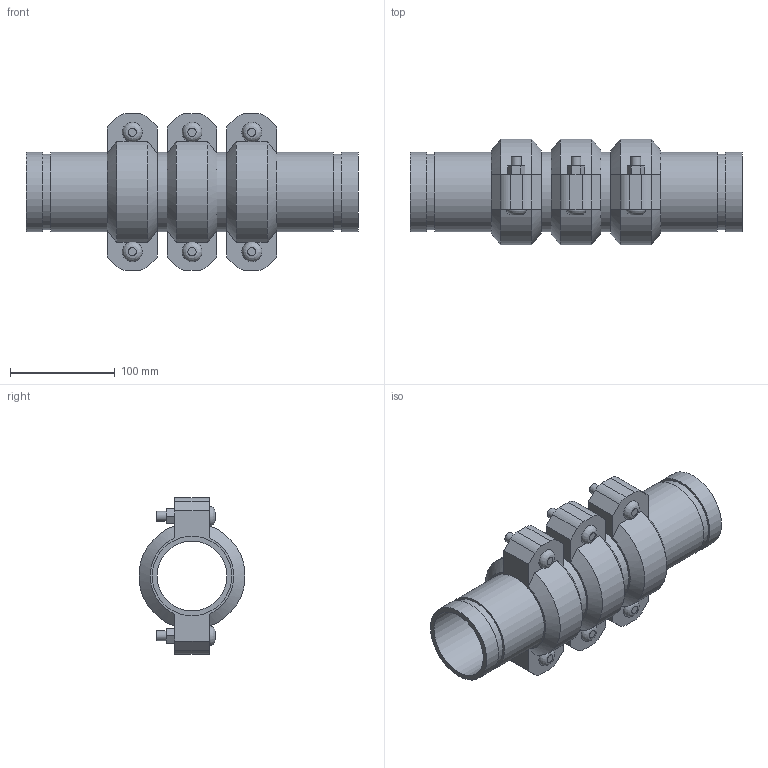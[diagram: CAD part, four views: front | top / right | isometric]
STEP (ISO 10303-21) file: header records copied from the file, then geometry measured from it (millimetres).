
FILE_DESCRIPTION(/* description */ ('VIC EXPANSION JOINT 3 COUPLINGS COMPRESSED STYLE 155 (OGS)','CAx-IF Rec.Pracs.---Representation and Presentation of Product Manufacturing Information (PMI)---4.0---2014-10-13'),/* implementation_level */ '2;1');
FILE_NAME(/* name */ 'C:\Users\kkamble\AppData\Roaming\Autodesk\ApplicationPlugins\Victaulic.Temp\A971\Victaulic_IPS_Expansion Joint_Compressed_3 Couplings_Style 155 (OGS)_02.5 (76.1) (65).stp',/* time_stamp */ '2021-06-27T00:25:23+02:00',/* author */ ('kkamble'),/* organization */ ('Victaulic'),/* preprocessor_version */ 'ST-DEVELOPER v17.2',/* originating_system */ 'Autodesk Inventor 2019',/* authorisation */ '');
FILE_SCHEMA (('AP242_MANAGED_MODEL_BASED_3D_ENGINEERING_MIM_LF { 1 0 10303 442 1 1 4 }'));
Length unit declared in the file: inch
Products named in the file (4): 155-02.5 (76.1); Nipple-02.5 (76.1); Nipple-02.5 (76.1)_1; 075-02.5 (76.1)
Assembly tree (7 placements, depth 2):
  155-02.5 (76.1)
    Nipple-02.5 (76.1)  x2
    Nipple-02.5 (76.1)_1  x2
    075-02.5 (76.1)  x3
Bounding box: 317.5 x 101.25 x 149.86 mm (x, y, z)
Volume: 970799.4 mm3; surface area: 289452.1 mm2
Topology: 7 solids, 13 shells, 207 faces, 513 edges, 360 vertices
Faces by surface type: plane 126, cylinder 63, cone 12, bspline 6
Full cylindrical faces by diameter (mm): 9.525 x12, 11.43 x6, 66.65 x4, 72.263 x8, 76.2 x15
Entity records: 2725 total; most frequent: CARTESIAN_POINT 509, DIRECTION 441, ORIENTED_EDGE 382, EDGE_CURVE 191, AXIS2_PLACEMENT_3D 174, VERTEX_POINT 136, EDGE_LOOP 99, LINE 93
